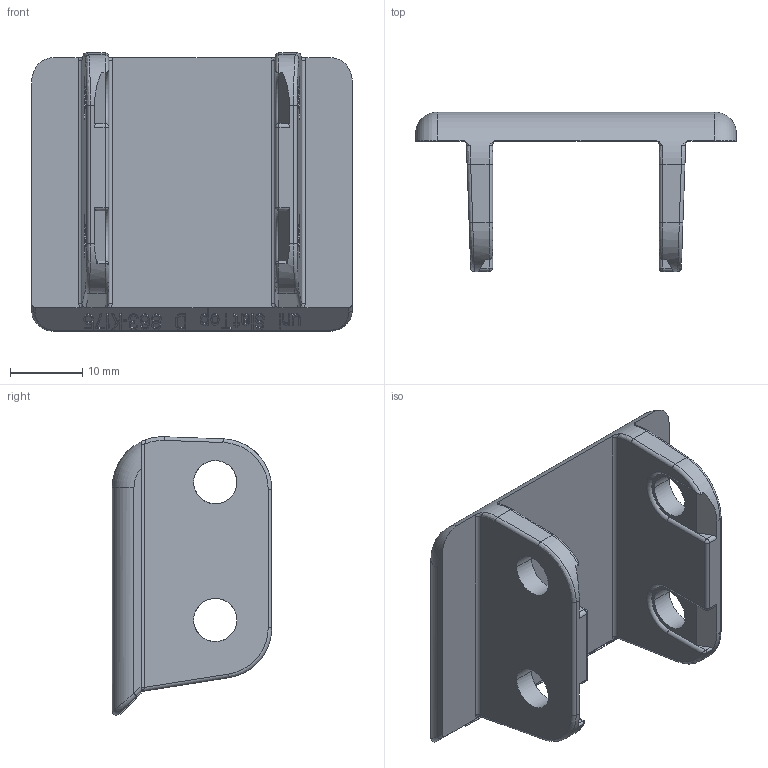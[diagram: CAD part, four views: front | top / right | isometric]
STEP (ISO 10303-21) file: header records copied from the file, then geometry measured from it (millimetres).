
FILE_DESCRIPTION((''),'2;1');
FILE_NAME('P313','2015-12-23T',('bhe'),(''),'CREO PARAMETRIC BY PTC INC, 2015290','CREO PARAMETRIC BY PTC INC, 2015290','');
FILE_SCHEMA(('CONFIG_CONTROL_DESIGN'));
Length unit declared in the file: millimetre
Products named in the file (1): P313
Bounding box: 44.5 x 22.1 x 38.59 mm (x, y, z)
Volume: 9481.3 mm3; surface area: 6153.8 mm2
Topology: 1 solids, 1 shells, 704 faces, 1967 edges, 1292 vertices
Faces by surface type: plane 622, cylinder 48, bspline 18, torus 12, sphere 4
Entity records: 23409 total; most frequent: CARTESIAN_POINT 5407, ORIENTED_EDGE 3934, DIRECTION 3349, EDGE_CURVE 1967, VECTOR 1809, LINE 1809, VERTEX_POINT 1292, AXIS2_PLACEMENT_3D 770
